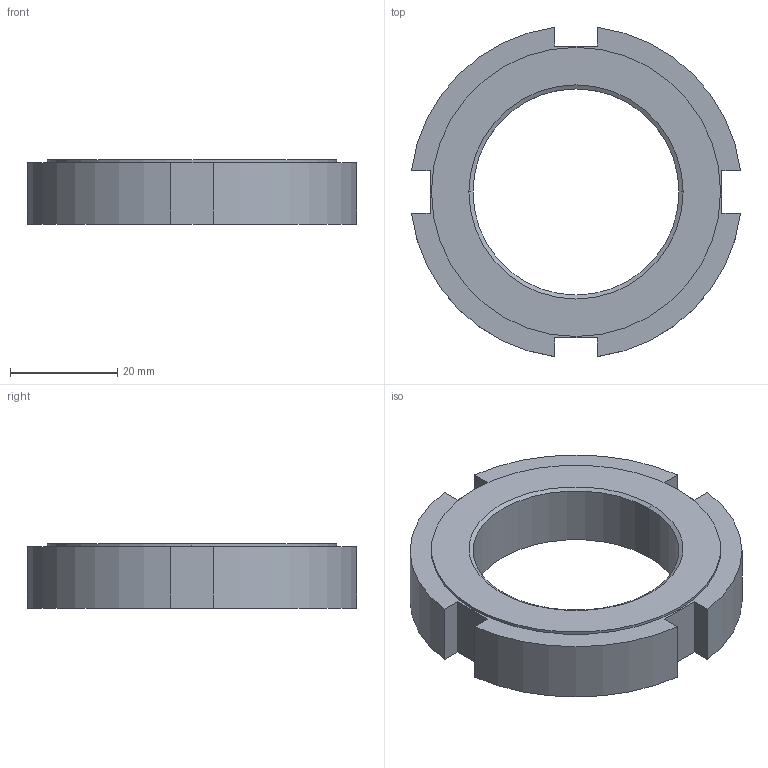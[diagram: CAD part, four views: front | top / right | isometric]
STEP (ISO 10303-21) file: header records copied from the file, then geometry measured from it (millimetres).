
FILE_DESCRIPTION (( 'STEP AP203' ), '1' );
FILE_NAME ('GERMA_Nutmutter_NM-40.STEP', '2023-09-12T12:50:46', ( '' ), ( '' ), 'SwSTEP 2.0', 'SolidWorks 2016', '' );
FILE_SCHEMA (( 'CONFIG_CONTROL_DESIGN' ));
Length unit declared in the file: millimetre
Products named in the file (1): GERMA_Nutmutter_NM-40
Bounding box: 61.48 x 61.48 x 12 mm (x, y, z)
Volume: 20503.1 mm3; surface area: 7495.8 mm2
Topology: 1 solids, 1 shells, 27 faces, 68 edges, 44 vertices
Faces by surface type: plane 15, cylinder 8, cone 4
Entity records: 891 total; most frequent: DIRECTION 144, CARTESIAN_POINT 140, ORIENTED_EDGE 136, EDGE_CURVE 68, VECTOR 48, LINE 48, AXIS2_PLACEMENT_3D 48, VERTEX_POINT 44
